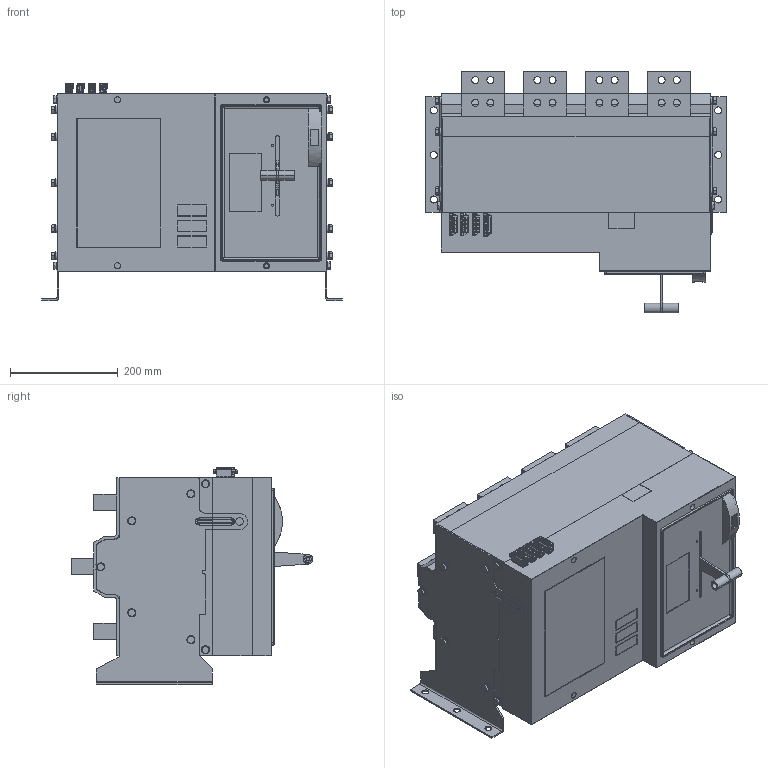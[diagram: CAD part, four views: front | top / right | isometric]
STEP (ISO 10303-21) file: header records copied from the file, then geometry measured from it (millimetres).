
FILE_DESCRIPTION (( 'STEP AP214' ), '1' );
FILE_NAME ('XKQE3150-3150A-4P.STEP', '2023-04-21T02:54:48', ( '' ), ( '' ), 'SwSTEP 2.0', 'SolidWorks 2020', '' );
FILE_SCHEMA (( 'AUTOMOTIVE_DESIGN' ));
Length unit declared in the file: millimetre
Products named in the file (11): XKQE3150-3150A-4P; 5XKQE.050.101.STEP.STEP; 1_2_1.STEP.STEP; 媼棒傷赽; 5XKQE.551.127.1-4.STEP.STEP; 8XKQE-253-102_1_1.STEP.STEP; 8XKQE-253-101_1_1.STEP.STEP; M8-25________.STEP; 8XKQE-050-124_3_1.STEP.STEP; 5XKQE-024-102_3_2.STEP.STEP; 8XKQE-003-100___.STEP.STEP
Assembly tree (26 placements, depth 2):
  XKQE3150-3150A-4P
    8XKQE-050-124_3_1.STEP.STEP
    1_2_1.STEP.STEP
    5XKQE.050.101.STEP.STEP
    8XKQE-253-102_1_1.STEP.STEP  x2
    8XKQE-003-100___.STEP.STEP
    8XKQE-253-101_1_1.STEP.STEP
    5XKQE-024-102_3_2.STEP.STEP
    5XKQE.551.127.1-4.STEP.STEP  x3
    M8-25________.STEP  x14
    媼棒傷赽
Bounding box: 557 x 448 x 402 mm (x, y, z)
Volume: 46097415.4 mm3; surface area: 2290459.8 mm2
Topology: 93 solids, 198 shells, 6202 faces, 16103 edges, 10531 vertices
Faces by surface type: plane 3914, cylinder 1484, cone 481, bspline 249, torus 66, sphere 8
Entity records: 243012 total; most frequent: CARTESIAN_POINT 50697, ORIENTED_EDGE 29590, DIRECTION 26190, EDGE_CURVE 14795, LINE 10056, VECTOR 10056, VERTEX_POINT 9701, AXIS2_PLACEMENT_3D 8067
